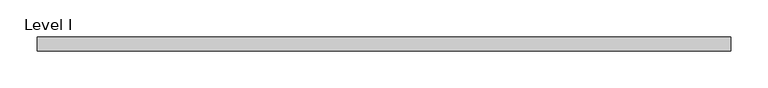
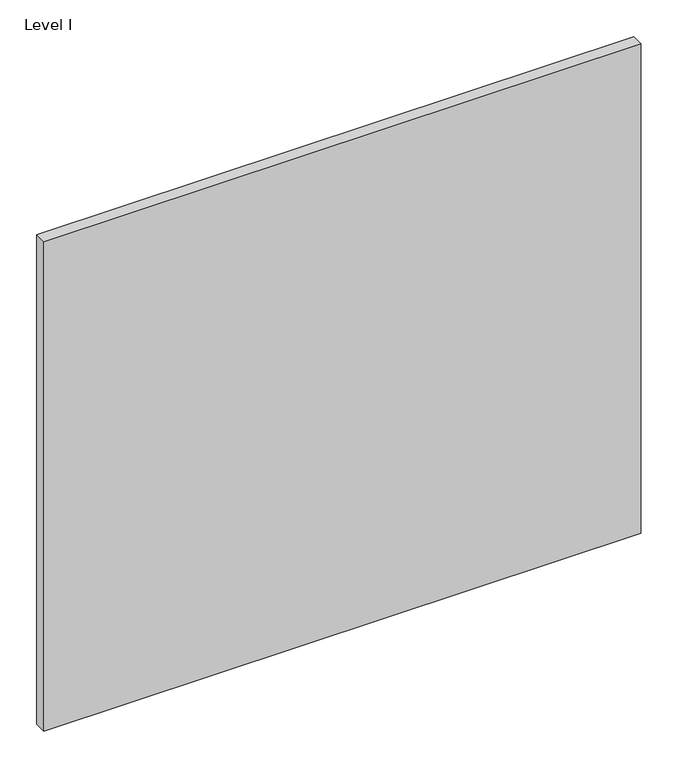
"""IFC4 building model written with IfcOpenShell, lengths in millimetres: proxy geometry, Panel-Fascia-Teknion-Altos-Standard : Level I."""

from ifc_helpers import new_model, si_unit, frame, origin, place, context, project, spatial, polyline, outline, extrude, source, transform, mapped, element, save


def level_i_93653ab4(model_context):
    return source(origin(), model_context, "Body", "SweptSolid", [
        extrude(outline(polyline([(467.9900391, -9.525), (-467.9900391, -9.525), (-467.9900391, 9.525), (467.9900391, 9.525), (467.9900391, -9.525)])), frame((0.0, 0.0, 3.175), z_axis=(0.0, 0.0, 1.0), x_axis=(1.0, 0.0, 0.0)), (0.0, 0.0, 1.0), 810.768),
    ])


if __name__ == "__main__":
    model = new_model("IFC4")
    model_context = context("Model", 3, world=origin())
    ifc_project = project(units=[si_unit("LENGTHUNIT", "METRE", prefix="MILLI")], contexts=[model_context])
    site = spatial("IfcSite", under=ifc_project)
    building = spatial("IfcBuilding", under=site)
    placement = place(None, origin())
    level_i_shape = level_i_93653ab4(model_context)
    element("IfcBuildingElementProxy", 1, Name="Panel-Fascia-Teknion-Altos-Standard : Level I", ObjectType="Panel-Fascia-Teknion-Altos-Standard : Level I", at=placement, inside=building, context=model_context, shape_type="MappedRepresentation", body=[
        mapped(level_i_shape, transform((0.0, 0.0, 0.0), x_axis=(1.0, 0.0, 0.0), y_axis=(0.0, 1.0, 0.0), z_axis=(0.0, 0.0, 1.0))),
    ])
    save(model, "model.ifc")
